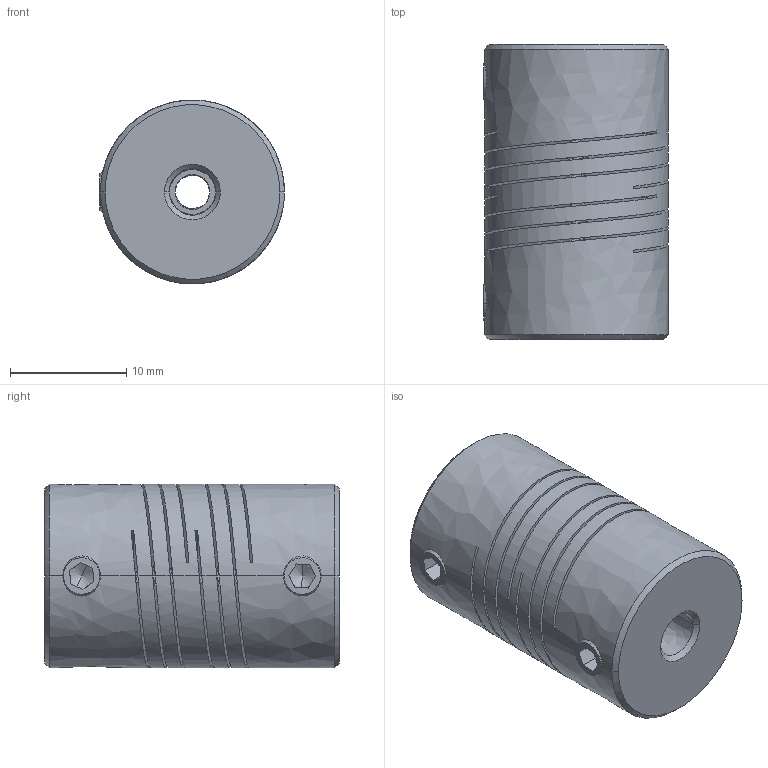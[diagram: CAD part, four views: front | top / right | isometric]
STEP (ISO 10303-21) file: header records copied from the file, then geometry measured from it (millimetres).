
FILE_DESCRIPTION((''),'2;1');
FILE_NAME('730_16','2026-02-24T',('SYSTEM'),(''),'PRO/ENGINEER BY PARAMETRIC TECHNOLOGY CORPORATION, 2016360','PRO/ENGINEER BY PARAMETRIC TECHNOLOGY CORPORATION, 2016360','');
FILE_SCHEMA(('AUTOMOTIVE_DESIGN { 1 0 10303 214 1 1 1 1 }'));
Length unit declared in the file: inch
Products named in the file (1): 730_16
Bounding box: 15.92 x 25.4 x 15.84 mm (x, y, z)
Volume: 4350.3 mm3; surface area: 4264.3 mm2
Topology: 1 solids, 1 shells, 94 faces, 295 edges, 191 vertices
Faces by surface type: bspline 94
Entity records: 7049 total; most frequent: CARTESIAN_POINT 4806, ORIENTED_EDGE 582, EDGE_CURVE 291, B_SPLINE_CURVE_WITH_KNOTS 206, VERTEX_POINT 191, COLOUR_RGB 111, EDGE_LOOP 100, FACE_OUTER_BOUND 94
